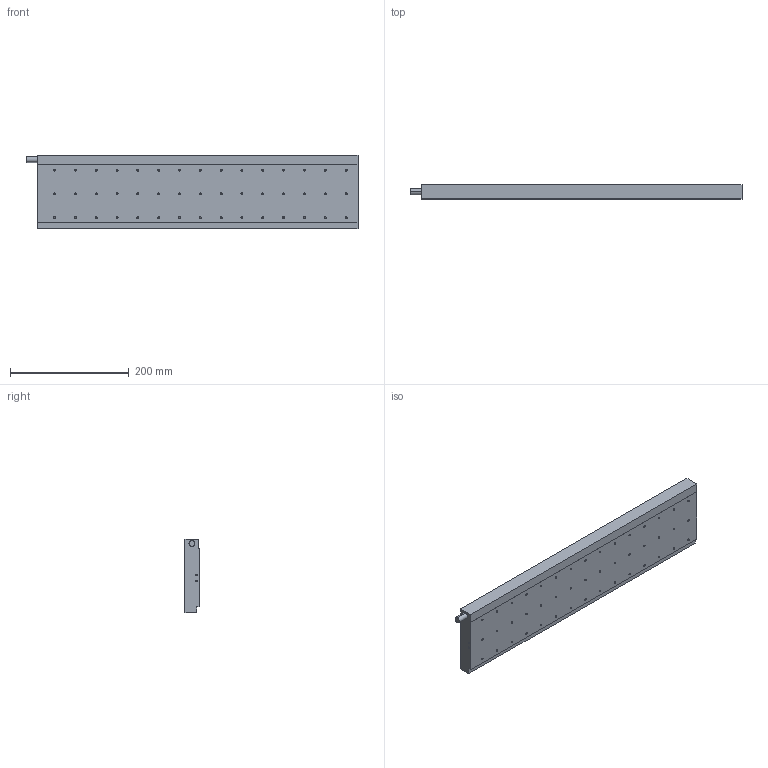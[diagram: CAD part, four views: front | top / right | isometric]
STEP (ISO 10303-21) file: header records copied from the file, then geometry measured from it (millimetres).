
FILE_DESCRIPTION (( 'STEP AP214' ), '1' );
FILE_NAME ('MK42.STEP', '2025-09-05T09:07:07', ( '' ), ( '' ), 'SwSTEP 2.0', 'SolidWorks 2016', '' );
FILE_SCHEMA (( 'AUTOMOTIVE_DESIGN' ));
Length unit declared in the file: millimetre
Products named in the file (1): MK42
Bounding box: 558 x 23.7 x 123.5 mm (x, y, z)
Volume: 1550515.7 mm3; surface area: 167765.8 mm2
Topology: 1 solids, 1 shells, 201 faces, 500 edges, 255 vertices
Faces by surface type: cylinder 96, cone 94, plane 11
Entity records: 6401 total; most frequent: DIRECTION 1002, CARTESIAN_POINT 863, ORIENTED_EDGE 812, EDGE_CURVE 406, AXIS2_PLACEMENT_3D 394, VERTEX_POINT 255, EDGE_LOOP 249, VECTOR 214
